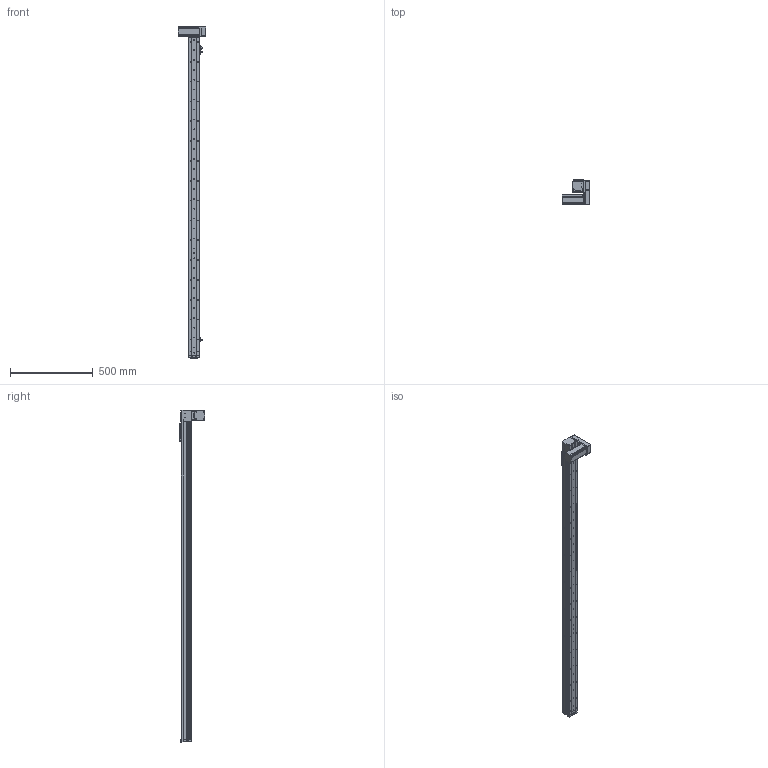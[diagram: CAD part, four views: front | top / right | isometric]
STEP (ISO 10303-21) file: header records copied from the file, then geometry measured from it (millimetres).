
FILE_DESCRIPTION (( 'STEP AP214' ), '1' );
FILE_NAME ('KSD68BS-S1750-MLD-CR.STEP', '2019-11-07T05:57:15', ( '微软用户' ), ( '微软中国' ), 'SwSTEP 2.0', 'SolidWorks 2014', '' );
FILE_SCHEMA (( 'AUTOMOTIVE_DESIGN' ));
Length unit declared in the file: millimetre
Products named in the file (14): 68遵裔啣揤啣1; 68宽单导轨全封闭丝杆传动安装板1防护罩; KSD68BS 1750行程侧板全封闭; 68宽单导轨全封闭同步带端板; 68单导轨全封闭同步带电机座左; 68单导轨全封闭同步带安装板; 悵誘欶奻狟殏; 68宽马达安装板连板上折同步带; 感应片68宽全封闭; U倰嫖萇EEㄜSX672; 台达ECMA－C20604AS伺服电机（400W); KSD68BS 1750行程盖板全封闭; KSD68BS 1750行程底板全封闭; KSD68BS-S1750-MLD-CR
Assembly tree (17 placements, depth 2):
  KSD68BS-S1750-MLD-CR
    KSD68BS 1750行程底板全封闭
    台达ECMA－C20604AS伺服电机（400W)
    U倰嫖萇EEㄜSX672  x3
    感应片68宽全封闭
    68宽马达安装板连板上折同步带
    悵誘欶奻狟殏
    68单导轨全封闭同步带安装板
    68单导轨全封闭同步带电机座左
    68宽单导轨全封闭同步带端板
    KSD68BS 1750行程侧板全封闭  x2
    68宽单导轨全封闭丝杆传动安装板1防护罩
    68遵裔啣揤啣1  x2
    KSD68BS 1750行程盖板全封闭
Bounding box: 167.2 x 155.5 x 2008.1 mm (x, y, z)
Volume: 3546758.1 mm3; surface area: 1448717.6 mm2
Topology: 18 solids, 18 shells, 1635 faces, 4725 edges, 3008 vertices
Faces by surface type: cylinder 810, plane 629, cone 196
Entity records: 53799 total; most frequent: CARTESIAN_POINT 9423, DIRECTION 7988, ORIENTED_EDGE 7646, EDGE_CURVE 3823, AXIS2_PLACEMENT_3D 2921, VERTEX_POINT 2506, LINE 2146, VECTOR 2146
